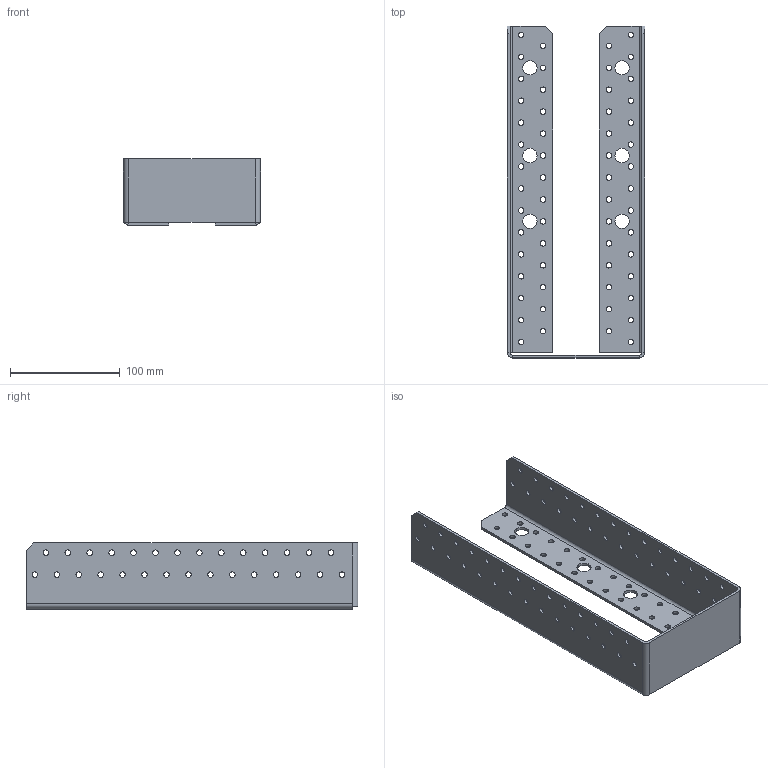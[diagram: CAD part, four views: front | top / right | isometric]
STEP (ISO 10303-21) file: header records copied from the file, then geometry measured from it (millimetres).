
FILE_DESCRIPTION (( 'STEP AP203' ), '1' );
FILE_NAME ('40507IKO.STEP', '2021-04-16T07:55:23', ( '' ), ( '' ), 'SwSTEP 2.0', 'SolidWorks 2013', '' );
FILE_SCHEMA (( 'CONFIG_CONTROL_DESIGN' ));
Length unit declared in the file: millimetre
Products named in the file (1): 40507IKO
Bounding box: 125 x 302.5 x 60.5 mm (x, y, z)
Volume: 156065.2 mm3; surface area: 134279.1 mm2
Topology: 1 solids, 1 shells, 288 faces, 828 edges, 542 vertices
Faces by surface type: cylinder 252, plane 36
Entity records: 10263 total; most frequent: DIRECTION 1912, CARTESIAN_POINT 1659, ORIENTED_EDGE 1656, EDGE_CURVE 828, AXIS2_PLACEMENT_3D 795, VERTEX_POINT 542, EDGE_LOOP 532, CIRCLE 506
